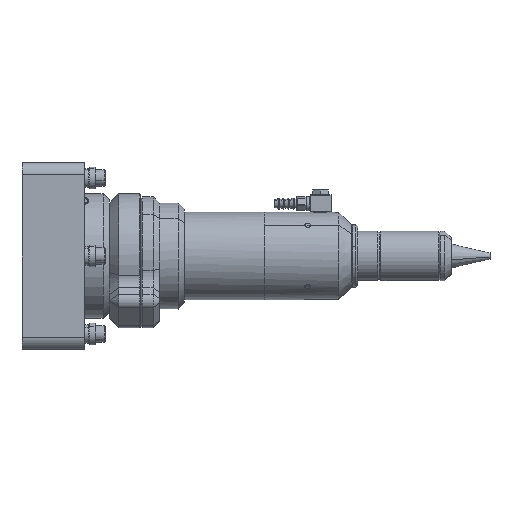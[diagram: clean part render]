
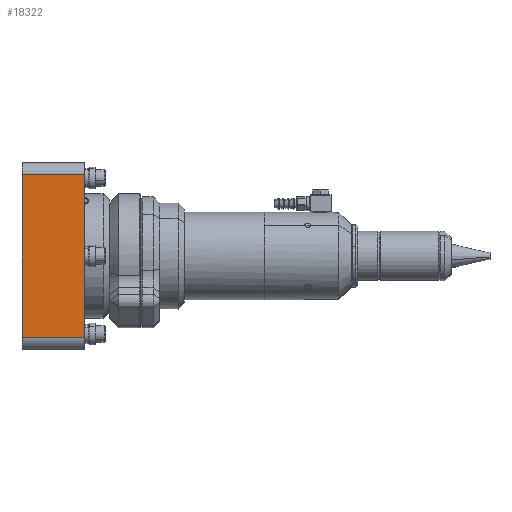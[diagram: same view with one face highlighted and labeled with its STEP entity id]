
A CAD part, left-side view. The second image highlights one B-rep face of the part: STEP entity #18322.
In plain terms, the highlighted planar face has unit normal (-1, 0, 0).
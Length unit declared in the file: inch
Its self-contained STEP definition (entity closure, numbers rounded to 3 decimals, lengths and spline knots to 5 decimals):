
#899 = VECTOR ( 'NONE', #10214, 39.37008 ) ;
#1105 = VERTEX_POINT ( 'NONE', #11776 ) ;
#1170 = EDGE_CURVE ( 'Defeatured_0_15+Defeatured_0_23+Defeatured_0_14+Defeatured_0_19', #9246, #1105, #16299, .T. ) ;
#1664 = DIRECTION ( 'NONE',  ( 0., 0., 1. ) ) ;
#2625 = EDGE_LOOP ( 'NONE', ( #3860, #8883, #21406, #19297 ) ) ;
#2895 = FACE_OUTER_BOUND ( 'NONE', #2625, .T. ) ;
#3282 = LINE ( 'NONE', #11839, #19851 ) ;
#3860 = ORIENTED_EDGE ( 'NONE', *, *, #8887, .F. ) ;
#4363 = CARTESIAN_POINT ( 'NONE',  ( -1.875, 1.25, -1.625 ) ) ;
#4369 = CARTESIAN_POINT ( 'NONE',  ( -1.875, 1.25, -1.875 ) ) ;
#4647 = PLANE ( 'NONE',  #20513 ) ;
#4983 = EDGE_CURVE ( 'Defeatured_0_15+Defeatured_0_19+Defeatured_0_23+Defeatured_0_24', #1105, #15880, #7578, .T. ) ;
#6747 = VECTOR ( 'NONE', #20162, 39.37008 ) ;
#6795 = VERTEX_POINT ( 'NONE', #20108 ) ;
#7578 = LINE ( 'NONE', #17938, #18720 ) ;
#7605 = LINE ( 'NONE', #16782, #899 ) ;
#8883 = ORIENTED_EDGE ( 'NONE', *, *, #1170, .T. ) ;
#8887 = EDGE_CURVE ( 'Defeatured_0_14+Defeatured_0_15+Defeatured_0_23+Defeatured_0_24', #9246, #6795, #7605, .T. ) ;
#9246 = VERTEX_POINT ( 'NONE', #4363 ) ;
#9325 = DIRECTION ( 'NONE',  ( 1., 0., 0. ) ) ;
#10214 = DIRECTION ( 'NONE',  ( 0., 0., 1. ) ) ;
#11776 = CARTESIAN_POINT ( 'NONE',  ( -1.875, 0., -1.625 ) ) ;
#11839 = CARTESIAN_POINT ( 'NONE',  ( -1.875, 1.25, 1.625 ) ) ;
#12667 = CARTESIAN_POINT ( 'NONE',  ( -1.875, 0., 1.625 ) ) ;
#13367 = EDGE_CURVE ( 'Defeatured_0_15+Defeatured_0_24+Defeatured_0_19+Defeatured_0_14', #15880, #6795, #3282, .T. ) ;
#15880 = VERTEX_POINT ( 'NONE', #12667 ) ;
#15906 = DIRECTION ( 'NONE',  ( 0., 0., -1. ) ) ;
#16299 = LINE ( 'NONE', #17103, #6747 ) ;
#16782 = CARTESIAN_POINT ( 'NONE',  ( -1.875, 1.25, -1.875 ) ) ;
#17103 = CARTESIAN_POINT ( 'NONE',  ( -1.875, 1.25, -1.625 ) ) ;
#17938 = CARTESIAN_POINT ( 'NONE',  ( -1.875, 0., -1.875 ) ) ;
#18322 = ADVANCED_FACE ( 'Defeatured_0_15', ( #2895 ), #4647, .F. ) ;
#18387 = DIRECTION ( 'NONE',  ( 0., 1., 0. ) ) ;
#18720 = VECTOR ( 'NONE', #1664, 39.37008 ) ;
#19297 = ORIENTED_EDGE ( 'NONE', *, *, #13367, .T. ) ;
#19851 = VECTOR ( 'NONE', #18387, 39.37008 ) ;
#20108 = CARTESIAN_POINT ( 'NONE',  ( -1.875, 1.25, 1.625 ) ) ;
#20162 = DIRECTION ( 'NONE',  ( 0., -1., 0. ) ) ;
#20513 = AXIS2_PLACEMENT_3D ( 'NONE', #4369, #9325, #15906 ) ;
#21406 = ORIENTED_EDGE ( 'NONE', *, *, #4983, .T. ) ;
